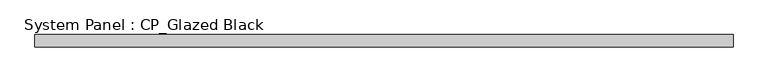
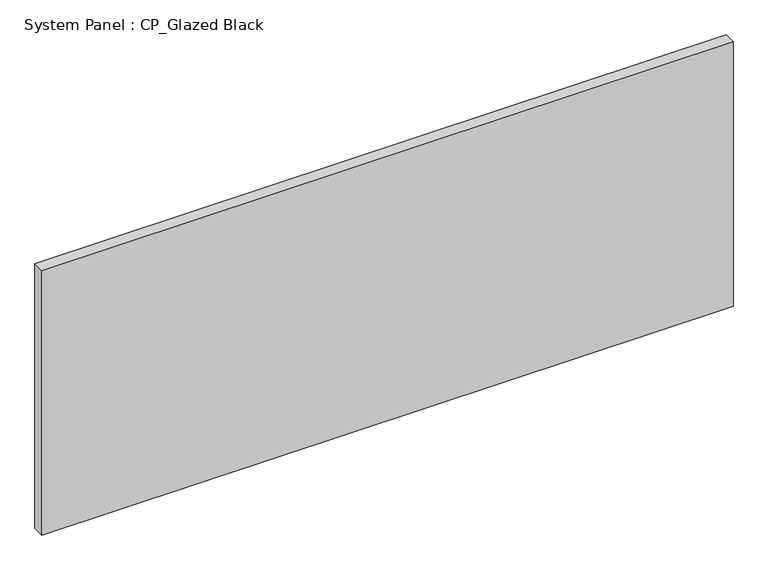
"""IFC4 building model written with IfcOpenShell, lengths in millimetres: plate geometry, System Panel : CP_Glazed Black."""

from ifc_helpers import new_model, si_unit, origin, origin_with_axes, place, context, project, spatial, polyline, outline, extrude, source, transform, mapped, element, save


def system_panel_cp_glazed_black_06555ca4(model_context):
    return source(origin(), model_context, "Body", "SweptSolid", [
        extrude(outline(polyline([(725.4875, 19.05), (-725.4875, 19.05), (-725.4875, 44.45), (725.4875, 44.45), (725.4875, 19.05)])), origin_with_axes(), (0.0, 0.0, 1.0), 586.58125),
    ])


if __name__ == "__main__":
    model = new_model("IFC4")
    model_context = context("Model", 3, world=origin())
    ifc_project = project(units=[si_unit("LENGTHUNIT", "METRE", prefix="MILLI")], contexts=[model_context])
    site = spatial("IfcSite", under=ifc_project)
    building = spatial("IfcBuilding", under=site)
    placement = place(None, origin())
    system_panel_cp_glazed_black_shape = system_panel_cp_glazed_black_06555ca4(model_context)
    element("IfcPlate", 1, ObjectType="System Panel : CP_Glazed Black", at=placement, inside=building, context=model_context, shape_type="MappedRepresentation", body=[
        mapped(system_panel_cp_glazed_black_shape, transform((0.0, 0.0, 0.0), x_axis=(1.0, 0.0, 0.0), y_axis=(0.0, 1.0, 0.0), z_axis=(0.0, 0.0, 1.0))),
    ])
    save(model, "model.ifc")
